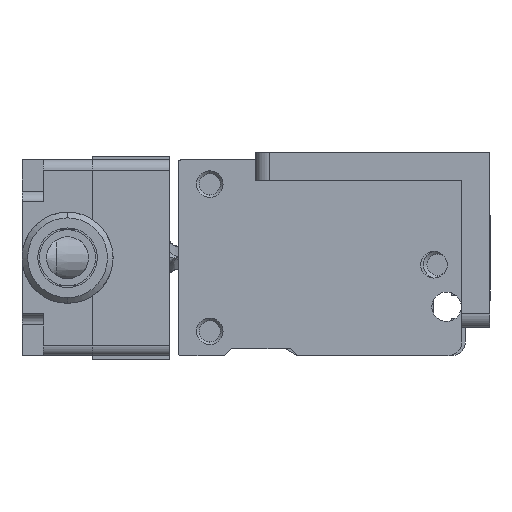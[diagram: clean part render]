
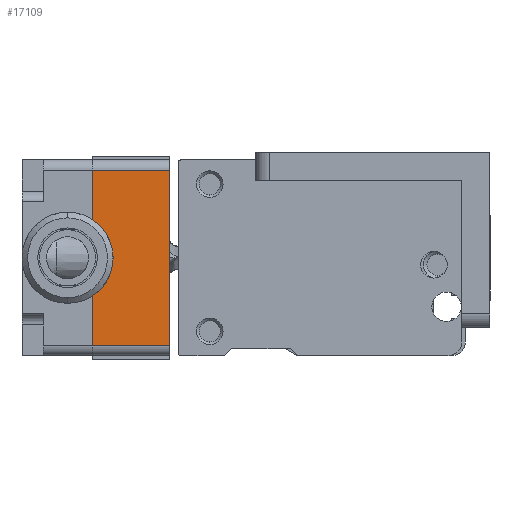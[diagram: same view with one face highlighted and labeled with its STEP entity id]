
A CAD part, left-side view. The second image highlights one B-rep face of the part: STEP entity #17109.
In plain terms, the highlighted planar face has unit normal (-1, 0, 0).
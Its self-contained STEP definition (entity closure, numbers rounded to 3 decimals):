
#936 = LINE ( 'NONE', #4792, #937 ) ;
#937 = VECTOR ( 'NONE', #4791, 1000. ) ;
#938 = LINE ( 'NONE', #4786, #939 ) ;
#939 = VECTOR ( 'NONE', #4782, 1000. ) ;
#941 = LINE ( 'NONE', #4807, #943 ) ;
#943 = VECTOR ( 'NONE', #4760, 1000. ) ;
#944 = LINE ( 'NONE', #4755, #945 ) ;
#945 = VECTOR ( 'NONE', #4753, 1000. ) ;
#4753 = DIRECTION ( 'NONE',  ( 0., 0., 1. ) ) ;
#4755 = CARTESIAN_POINT ( 'NONE',  ( -0.373, -56.718, 15.08 ) ) ;
#4760 = DIRECTION ( 'NONE',  ( 0., -1., 0. ) ) ;
#4782 = DIRECTION ( 'NONE',  ( 0., 0., 1. ) ) ;
#4786 = CARTESIAN_POINT ( 'NONE',  ( -0.373, -45.718, 15.08 ) ) ;
#4791 = DIRECTION ( 'NONE',  ( 0., 1., 0. ) ) ;
#4792 = CARTESIAN_POINT ( 'NONE',  ( -0.373, -56.938, -12.5 ) ) ;
#4807 = CARTESIAN_POINT ( 'NONE',  ( -0.373, -45.718, 12.5 ) ) ;
#5548 = EDGE_CURVE ( 'NONE', #18550, #18481, #936, .T. ) ;
#5549 = EDGE_CURVE ( 'NONE', #18481, #18388, #938, .T. ) ;
#5552 = EDGE_CURVE ( 'NONE', #18388, #18616, #941, .T. ) ;
#5553 = EDGE_CURVE ( 'NONE', #18550, #18616, #944, .T. ) ;
#6138 = EDGE_LOOP ( 'NONE', ( #15788, #15787, #15786, #15785 ) ) ;
#10957 = CARTESIAN_POINT ( 'NONE',  ( -0.373, -56.938, 13. ) ) ;
#10958 = PLANE ( 'NONE',  #11706 ) ;
#10960 = DIRECTION ( 'NONE',  ( 1., 0., 0. ) ) ;
#10961 = DIRECTION ( 'NONE',  ( 0., 0., -1. ) ) ;
#11706 = AXIS2_PLACEMENT_3D ( 'NONE', #10957, #10960, #10961 ) ;
#12601 = FACE_OUTER_BOUND ( 'NONE', #6138, .T. ) ;
#14536 = CARTESIAN_POINT ( 'NONE',  ( -0.373, -45.718, 12.5 ) ) ;
#14629 = CARTESIAN_POINT ( 'NONE',  ( -0.373, -45.718, -12.5 ) ) ;
#14698 = CARTESIAN_POINT ( 'NONE',  ( -0.373, -56.718, -12.5 ) ) ;
#14764 = CARTESIAN_POINT ( 'NONE',  ( -0.373, -56.718, 12.5 ) ) ;
#15785 = ORIENTED_EDGE ( 'NONE', *, *, #5548, .F. ) ;
#15786 = ORIENTED_EDGE ( 'NONE', *, *, #5549, .F. ) ;
#15787 = ORIENTED_EDGE ( 'NONE', *, *, #5552, .F. ) ;
#15788 = ORIENTED_EDGE ( 'NONE', *, *, #5553, .T. ) ;
#17109 = ADVANCED_FACE ( 'NONE', ( #12601 ), #10958, .F. ) ;
#18388 = VERTEX_POINT ( 'NONE', #14536 ) ;
#18481 = VERTEX_POINT ( 'NONE', #14629 ) ;
#18550 = VERTEX_POINT ( 'NONE', #14698 ) ;
#18616 = VERTEX_POINT ( 'NONE', #14764 ) ;
